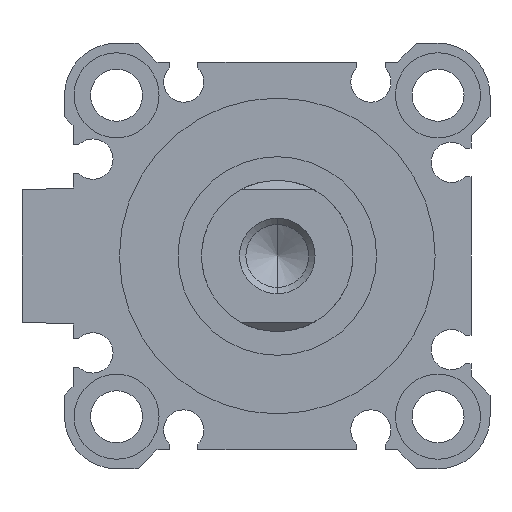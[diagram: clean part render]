
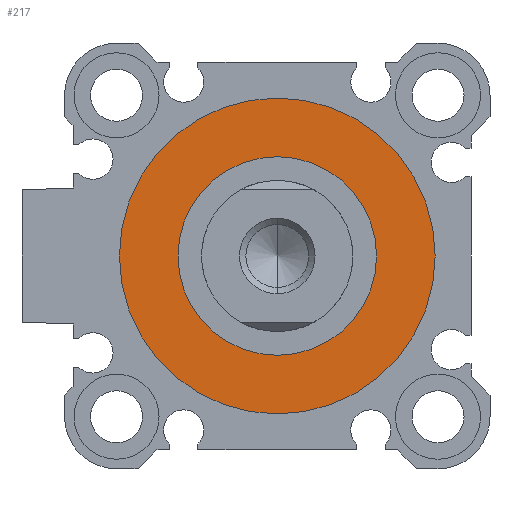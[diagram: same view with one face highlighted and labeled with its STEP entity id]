
A CAD part, left-side view. The second image highlights one B-rep face of the part: STEP entity #217.
In plain terms, the highlighted planar face has unit normal (-1, 0, 0).
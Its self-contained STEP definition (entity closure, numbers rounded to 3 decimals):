
#167 = CARTESIAN_POINT ( 'NONE',  ( 2.1, 0., 0. ) ) ;
#189 = DIRECTION ( 'NONE',  ( 0., 0., -1. ) ) ;
#217 = ADVANCED_FACE ( 'NONE', ( #3009, #3050 ), #1079, .F. ) ;
#238 = DIRECTION ( 'NONE',  ( 1., 0., 0. ) ) ;
#481 = ORIENTED_EDGE ( 'NONE', *, *, #597, .T. ) ;
#597 = EDGE_CURVE ( 'NONE', #1508, #1759, #1208, .T. ) ;
#598 = AXIS2_PLACEMENT_3D ( 'NONE', #934, #1755, #2803 ) ;
#670 = CIRCLE ( 'NONE', #598, 10.5 ) ;
#685 = EDGE_LOOP ( 'NONE', ( #4930, #1147 ) ) ;
#731 = CIRCLE ( 'NONE', #2755, 16.7 ) ;
#892 = EDGE_CURVE ( 'NONE', #4424, #1003, #1122, .T. ) ;
#934 = CARTESIAN_POINT ( 'NONE',  ( 2.1, 0., 0. ) ) ;
#1003 = VERTEX_POINT ( 'NONE', #1019 ) ;
#1019 = CARTESIAN_POINT ( 'NONE',  ( 2.1, 0., -16.7 ) ) ;
#1079 = PLANE ( 'NONE',  #2439 ) ;
#1122 = CIRCLE ( 'NONE', #4365, 16.7 ) ;
#1147 = ORIENTED_EDGE ( 'NONE', *, *, #3124, .F. ) ;
#1208 = CIRCLE ( 'NONE', #3149, 10.5 ) ;
#1508 = VERTEX_POINT ( 'NONE', #5027 ) ;
#1755 = DIRECTION ( 'NONE',  ( 1., 0., 0. ) ) ;
#1759 = VERTEX_POINT ( 'NONE', #4971 ) ;
#2156 = CARTESIAN_POINT ( 'NONE',  ( 2.1, 0., 0. ) ) ;
#2439 = AXIS2_PLACEMENT_3D ( 'NONE', #4610, #4587, #4637 ) ;
#2456 = ORIENTED_EDGE ( 'NONE', *, *, #2769, .T. ) ;
#2471 = DIRECTION ( 'NONE',  ( 0., 0., -1. ) ) ;
#2755 = AXIS2_PLACEMENT_3D ( 'NONE', #167, #2820, #2471 ) ;
#2769 = EDGE_CURVE ( 'NONE', #1759, #1508, #670, .T. ) ;
#2782 = CARTESIAN_POINT ( 'NONE',  ( 2.1, 0., 16.7 ) ) ;
#2803 = DIRECTION ( 'NONE',  ( 0., 0., -1. ) ) ;
#2820 = DIRECTION ( 'NONE',  ( 1., 0., 0. ) ) ;
#2865 = DIRECTION ( 'NONE',  ( 1., 0., 0. ) ) ;
#3009 = FACE_OUTER_BOUND ( 'NONE', #685, .T. ) ;
#3050 = FACE_BOUND ( 'NONE', #3844, .T. ) ;
#3124 = EDGE_CURVE ( 'NONE', #1003, #4424, #731, .T. ) ;
#3149 = AXIS2_PLACEMENT_3D ( 'NONE', #4941, #238, #189 ) ;
#3844 = EDGE_LOOP ( 'NONE', ( #2456, #481 ) ) ;
#4143 = DIRECTION ( 'NONE',  ( 0., 0., -1. ) ) ;
#4365 = AXIS2_PLACEMENT_3D ( 'NONE', #2156, #2865, #4143 ) ;
#4424 = VERTEX_POINT ( 'NONE', #2782 ) ;
#4587 = DIRECTION ( 'NONE',  ( 1., 0., 0. ) ) ;
#4610 = CARTESIAN_POINT ( 'NONE',  ( 2.1, 0., 0. ) ) ;
#4637 = DIRECTION ( 'NONE',  ( 0., 1., 0. ) ) ;
#4930 = ORIENTED_EDGE ( 'NONE', *, *, #892, .F. ) ;
#4941 = CARTESIAN_POINT ( 'NONE',  ( 2.1, 0., 0. ) ) ;
#4971 = CARTESIAN_POINT ( 'NONE',  ( 2.1, 0., 10.5 ) ) ;
#5027 = CARTESIAN_POINT ( 'NONE',  ( 2.1, 0., -10.5 ) ) ;
